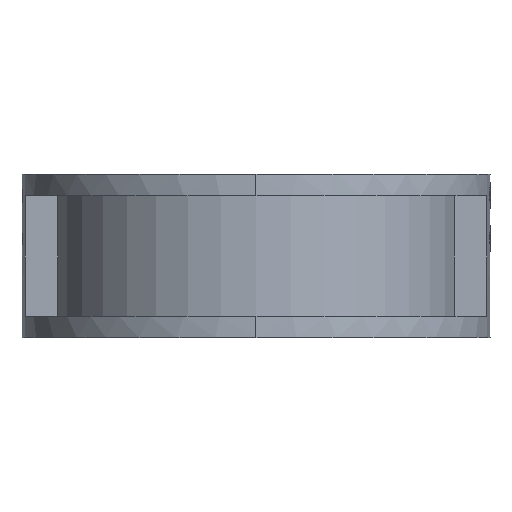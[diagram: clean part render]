
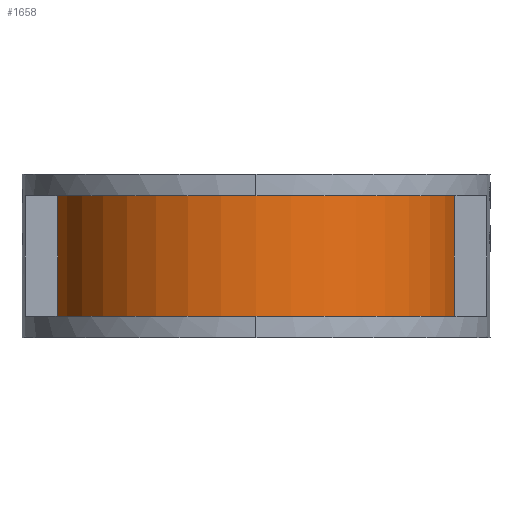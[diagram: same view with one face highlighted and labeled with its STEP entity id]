
A CAD part, left-side view. The second image highlights one B-rep face of the part: STEP entity #1658.
In plain terms, the highlighted cylindrical face has radius 93.5 mm (diameter 187 mm), a partial arc.
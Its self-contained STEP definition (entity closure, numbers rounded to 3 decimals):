
#347=CARTESIAN_POINT('',(0.,0.,28.));
#348=DIRECTION('',(0.,0.,1.));
#349=DIRECTION('',(-0.187,0.982,0.));
#350=AXIS2_PLACEMENT_3D('',#347,#348,#349);
#352=DIRECTION('',(0.,0.,1.));
#353=VECTOR('',#352,56.);
#354=CARTESIAN_POINT('',(-17.5,-91.848,-28.));
#355=LINE('',#354,#353);
#356=CARTESIAN_POINT('',(0.,0.,-28.));
#357=DIRECTION('',(0.,0.,-1.));
#358=DIRECTION('',(-0.187,-0.982,0.));
#359=AXIS2_PLACEMENT_3D('',#356,#357,#358);
#361=DIRECTION('',(0.,0.,1.));
#362=VECTOR('',#361,56.);
#363=CARTESIAN_POINT('',(-17.5,91.848,-28.));
#364=LINE('',#363,#362);
#1135=CARTESIAN_POINT('',(-17.5,91.848,-28.));
#1137=VERTEX_POINT('',#1135);
#1138=CARTESIAN_POINT('',(-17.5,-91.848,-28.));
#1140=VERTEX_POINT('',#1138);
#1148=CARTESIAN_POINT('',(-17.5,91.848,28.));
#1149=VERTEX_POINT('',#1148);
#1154=CARTESIAN_POINT('',(-17.5,-91.848,28.));
#1156=VERTEX_POINT('',#1154);
#1646=CARTESIAN_POINT('',(0.,0.,-30.8));
#1647=DIRECTION('',(0.,0.,1.));
#1648=DIRECTION('',(-1.,0.,0.));
#1649=AXIS2_PLACEMENT_3D('',#1646,#1647,#1648);
#1650=CYLINDRICAL_SURFACE('',#1649,93.5);
#1651=ORIENTED_EDGE('',*,*,#1628,.T.);
#1653=ORIENTED_EDGE('',*,*,#1652,.F.);
#1654=ORIENTED_EDGE('',*,*,#1549,.T.);
#1655=ORIENTED_EDGE('',*,*,#1597,.T.);
#1656=EDGE_LOOP('',(#1651,#1653,#1654,#1655));
#1657=FACE_OUTER_BOUND('',#1656,.F.);
#1658=ADVANCED_FACE('',(#1657),#1650,.T.);
#351=CIRCLE('',#350,93.5);
#360=CIRCLE('',#359,93.5);
#1549=EDGE_CURVE('',#1140,#1137,#360,.T.);
#1597=EDGE_CURVE('',#1137,#1149,#364,.T.);
#1628=EDGE_CURVE('',#1149,#1156,#351,.T.);
#1652=EDGE_CURVE('',#1140,#1156,#355,.T.);
